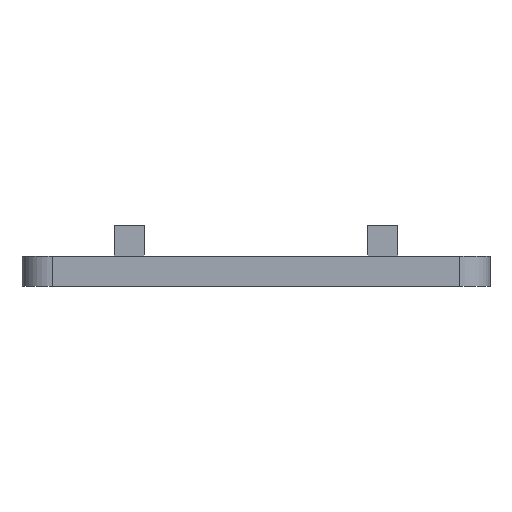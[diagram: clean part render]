
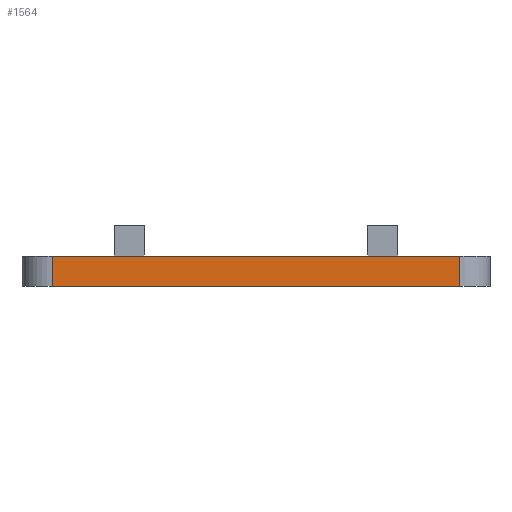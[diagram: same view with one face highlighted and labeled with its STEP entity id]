
A CAD part, left-side view. The second image highlights one B-rep face of the part: STEP entity #1564.
In plain terms, the highlighted planar face has unit normal (-1, 0, 0).
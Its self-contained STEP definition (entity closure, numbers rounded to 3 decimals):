
#44 = PLANE('',#45);
#45 = AXIS2_PLACEMENT_3D('',#46,#47,#48);
#46 = CARTESIAN_POINT('',(-9.,0.,0.));
#47 = DIRECTION('',(0.,0.,1.));
#48 = DIRECTION('',(1.,0.,-0.));
#72 = CYLINDRICAL_SURFACE('',#73,2.);
#73 = AXIS2_PLACEMENT_3D('',#74,#75,#76);
#74 = CARTESIAN_POINT('',(-27.,-13.5,0.));
#75 = DIRECTION('',(0.,0.,1.));
#76 = DIRECTION('',(0.,-1.,0.));
#100 = PLANE('',#101);
#101 = AXIS2_PLACEMENT_3D('',#102,#103,#104);
#102 = CARTESIAN_POINT('',(-9.,0.,2.));
#103 = DIRECTION('',(0.,0.,1.));
#104 = DIRECTION('',(1.,0.,-0.));
#252 = VERTEX_POINT('',#253);
#253 = CARTESIAN_POINT('',(-29.,13.5,0.));
#268 = CYLINDRICAL_SURFACE('',#269,2.);
#269 = AXIS2_PLACEMENT_3D('',#270,#271,#272);
#270 = CARTESIAN_POINT('',(-27.,13.5,0.));
#271 = DIRECTION('',(0.,0.,1.));
#272 = DIRECTION('',(-0.,1.,0.));
#280 = EDGE_CURVE('',#252,#281,#283,.T.);
#281 = VERTEX_POINT('',#282);
#282 = CARTESIAN_POINT('',(-29.,-13.5,0.));
#283 = SURFACE_CURVE('',#284,(#288,#295),.PCURVE_S1.);
#284 = LINE('',#285,#286);
#285 = CARTESIAN_POINT('',(-29.,15.5,0.));
#286 = VECTOR('',#287,1.);
#287 = DIRECTION('',(0.,-1.,0.));
#288 = PCURVE('',#44,#289);
#289 = DEFINITIONAL_REPRESENTATION('',(#290),#294);
#290 = LINE('',#291,#292);
#291 = CARTESIAN_POINT('',(-20.,15.5));
#292 = VECTOR('',#293,1.);
#293 = DIRECTION('',(0.,-1.));
#294 = ( GEOMETRIC_REPRESENTATION_CONTEXT(2) 
PARAMETRIC_REPRESENTATION_CONTEXT() REPRESENTATION_CONTEXT('2D SPACE',''
  ) );
#295 = PCURVE('',#296,#301);
#296 = PLANE('',#297);
#297 = AXIS2_PLACEMENT_3D('',#298,#299,#300);
#298 = CARTESIAN_POINT('',(-29.,15.5,0.));
#299 = DIRECTION('',(1.,0.,-0.));
#300 = DIRECTION('',(0.,-1.,0.));
#301 = DEFINITIONAL_REPRESENTATION('',(#302),#306);
#302 = LINE('',#303,#304);
#303 = CARTESIAN_POINT('',(0.,0.));
#304 = VECTOR('',#305,1.);
#305 = DIRECTION('',(1.,0.));
#306 = ( GEOMETRIC_REPRESENTATION_CONTEXT(2) 
PARAMETRIC_REPRESENTATION_CONTEXT() REPRESENTATION_CONTEXT('2D SPACE',''
  ) );
#638 = EDGE_CURVE('',#281,#639,#641,.T.);
#639 = VERTEX_POINT('',#640);
#640 = CARTESIAN_POINT('',(-29.,-13.5,2.));
#641 = SURFACE_CURVE('',#642,(#646,#653),.PCURVE_S1.);
#642 = LINE('',#643,#644);
#643 = CARTESIAN_POINT('',(-29.,-13.5,0.));
#644 = VECTOR('',#645,1.);
#645 = DIRECTION('',(0.,0.,1.));
#646 = PCURVE('',#72,#647);
#647 = DEFINITIONAL_REPRESENTATION('',(#648),#652);
#648 = LINE('',#649,#650);
#649 = CARTESIAN_POINT('',(-1.571,0.));
#650 = VECTOR('',#651,1.);
#651 = DIRECTION('',(-0.,1.));
#652 = ( GEOMETRIC_REPRESENTATION_CONTEXT(2) 
PARAMETRIC_REPRESENTATION_CONTEXT() REPRESENTATION_CONTEXT('2D SPACE',''
  ) );
#653 = PCURVE('',#296,#654);
#654 = DEFINITIONAL_REPRESENTATION('',(#655),#659);
#655 = LINE('',#656,#657);
#656 = CARTESIAN_POINT('',(29.,0.));
#657 = VECTOR('',#658,1.);
#658 = DIRECTION('',(0.,-1.));
#659 = ( GEOMETRIC_REPRESENTATION_CONTEXT(2) 
PARAMETRIC_REPRESENTATION_CONTEXT() REPRESENTATION_CONTEXT('2D SPACE',''
  ) );
#814 = VERTEX_POINT('',#815);
#815 = CARTESIAN_POINT('',(-29.,13.5,2.));
#837 = EDGE_CURVE('',#814,#639,#838,.T.);
#838 = SURFACE_CURVE('',#839,(#843,#850),.PCURVE_S1.);
#839 = LINE('',#840,#841);
#840 = CARTESIAN_POINT('',(-29.,15.5,2.));
#841 = VECTOR('',#842,1.);
#842 = DIRECTION('',(0.,-1.,0.));
#843 = PCURVE('',#100,#844);
#844 = DEFINITIONAL_REPRESENTATION('',(#845),#849);
#845 = LINE('',#846,#847);
#846 = CARTESIAN_POINT('',(-20.,15.5));
#847 = VECTOR('',#848,1.);
#848 = DIRECTION('',(0.,-1.));
#849 = ( GEOMETRIC_REPRESENTATION_CONTEXT(2) 
PARAMETRIC_REPRESENTATION_CONTEXT() REPRESENTATION_CONTEXT('2D SPACE',''
  ) );
#850 = PCURVE('',#296,#851);
#851 = DEFINITIONAL_REPRESENTATION('',(#852),#856);
#852 = LINE('',#853,#854);
#853 = CARTESIAN_POINT('',(0.,-2.));
#854 = VECTOR('',#855,1.);
#855 = DIRECTION('',(1.,0.));
#856 = ( GEOMETRIC_REPRESENTATION_CONTEXT(2) 
PARAMETRIC_REPRESENTATION_CONTEXT() REPRESENTATION_CONTEXT('2D SPACE',''
  ) );
#1564 = ADVANCED_FACE('',(#1565),#296,.F.);
#1565 = FACE_BOUND('',#1566,.F.);
#1566 = EDGE_LOOP('',(#1567,#1568,#1589,#1590));
#1567 = ORIENTED_EDGE('',*,*,#280,.F.);
#1568 = ORIENTED_EDGE('',*,*,#1569,.T.);
#1569 = EDGE_CURVE('',#252,#814,#1570,.T.);
#1570 = SURFACE_CURVE('',#1571,(#1575,#1582),.PCURVE_S1.);
#1571 = LINE('',#1572,#1573);
#1572 = CARTESIAN_POINT('',(-29.,13.5,0.));
#1573 = VECTOR('',#1574,1.);
#1574 = DIRECTION('',(0.,0.,1.));
#1575 = PCURVE('',#296,#1576);
#1576 = DEFINITIONAL_REPRESENTATION('',(#1577),#1581);
#1577 = LINE('',#1578,#1579);
#1578 = CARTESIAN_POINT('',(2.,0.));
#1579 = VECTOR('',#1580,1.);
#1580 = DIRECTION('',(0.,-1.));
#1581 = ( GEOMETRIC_REPRESENTATION_CONTEXT(2) 
PARAMETRIC_REPRESENTATION_CONTEXT() REPRESENTATION_CONTEXT('2D SPACE',''
  ) );
#1582 = PCURVE('',#268,#1583);
#1583 = DEFINITIONAL_REPRESENTATION('',(#1584),#1588);
#1584 = LINE('',#1585,#1586);
#1585 = CARTESIAN_POINT('',(1.571,0.));
#1586 = VECTOR('',#1587,1.);
#1587 = DIRECTION('',(0.,1.));
#1588 = ( GEOMETRIC_REPRESENTATION_CONTEXT(2) 
PARAMETRIC_REPRESENTATION_CONTEXT() REPRESENTATION_CONTEXT('2D SPACE',''
  ) );
#1589 = ORIENTED_EDGE('',*,*,#837,.T.);
#1590 = ORIENTED_EDGE('',*,*,#638,.F.);
